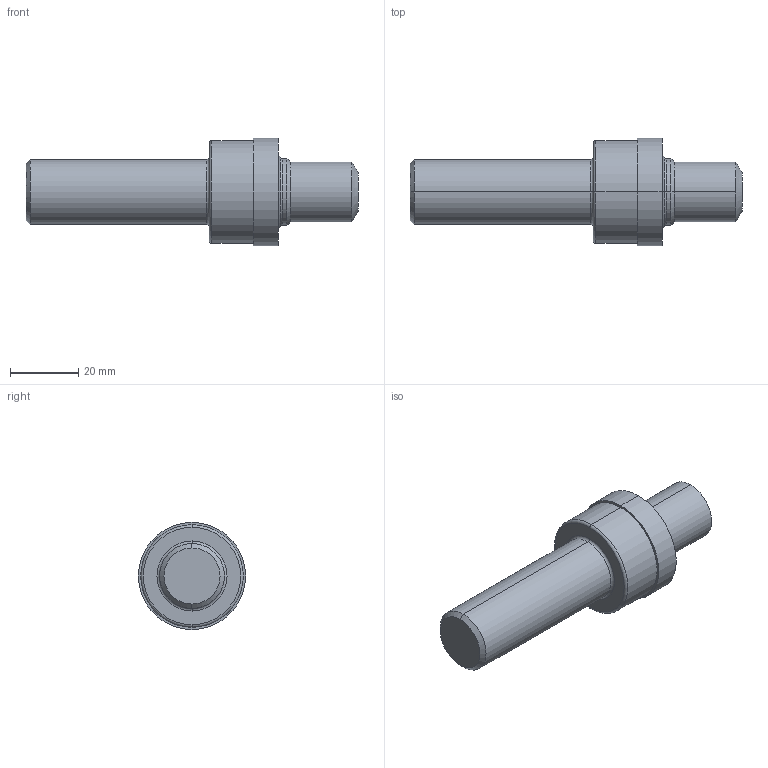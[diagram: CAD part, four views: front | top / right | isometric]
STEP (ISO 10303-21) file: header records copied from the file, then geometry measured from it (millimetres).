
FILE_DESCRIPTION (( 'STEP AP203' ), '1' );
FILE_NAME ('AS5202-08R.STEP', '2024-06-19T19:06:27', ( '' ), ( '' ), 'SwSTEP 2.0', 'SolidWorks 2022', '' );
FILE_SCHEMA (( 'CONFIG_CONTROL_DESIGN' ));
Length unit declared in the file: inch
Products named in the file (1): AS5202-08R
Bounding box: 97.54 x 31.5 x 31.5 mm (x, y, z)
Volume: 35989 mm3; surface area: 7794.1 mm2
Topology: 1 solids, 1 shells, 29 faces, 56 edges, 32 vertices
Faces by surface type: cylinder 10, cone 8, torus 6, plane 5
Entity records: 819 total; most frequent: DIRECTION 154, CARTESIAN_POINT 118, ORIENTED_EDGE 112, AXIS2_PLACEMENT_3D 68, EDGE_CURVE 56, CIRCLE 38, EDGE_LOOP 32, VERTEX_POINT 32
